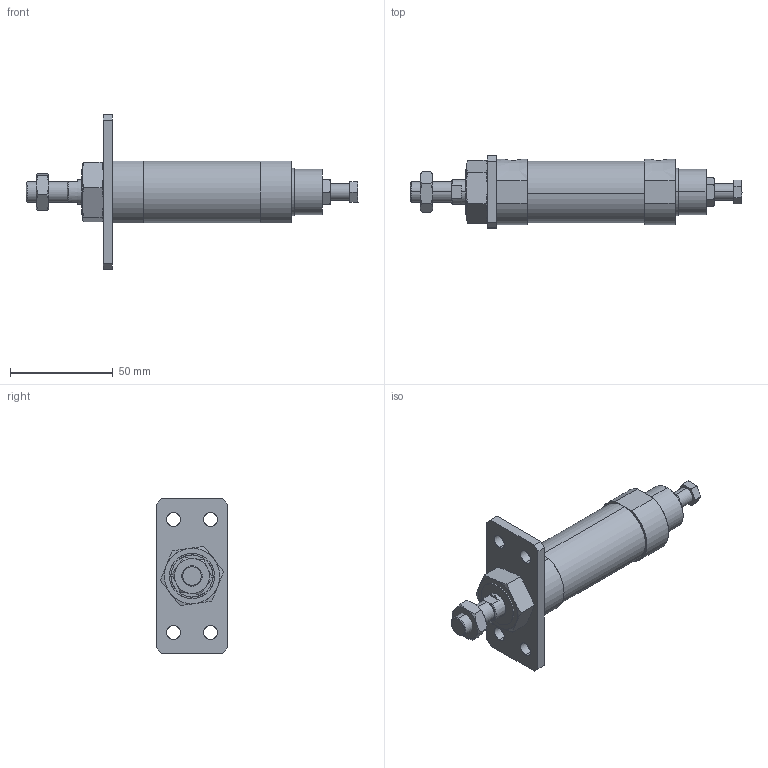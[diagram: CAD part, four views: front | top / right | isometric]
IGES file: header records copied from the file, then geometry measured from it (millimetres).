
Start section: SolidWorks IGES file using analytic representation for surfaces
Global section: file name: C:\Users\Toshiba\Desktop\JGA2-25-25-A.IGS; native system: SolidWorks 2014; preprocessor: SolidWorks 2014; author: Toshiba; date: 160420.130555; units: millimetre
Bounding box: 161.5 x 35 x 75 mm (x, y, z)
Surface area: 26437.3 mm2 (no closed solid volume)
Topology: 0 solids, 0 shells, 144 faces, 2556 edges, 2552 vertices
Faces by surface type: bspline 98, revolution 46
